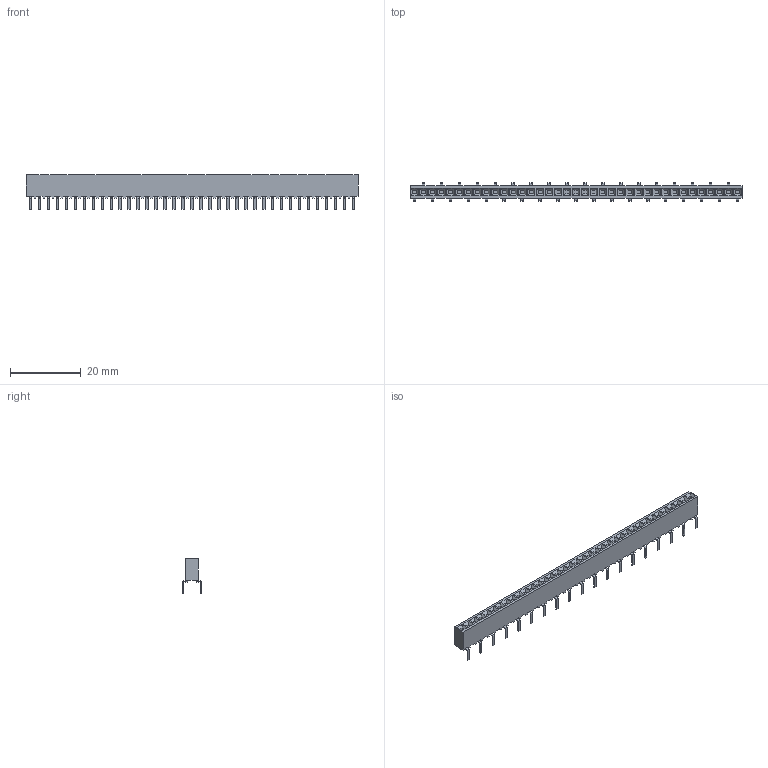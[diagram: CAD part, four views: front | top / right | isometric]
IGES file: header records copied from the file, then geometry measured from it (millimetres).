
Start section:  PTC IGES file: c-0147726-36-j-3d.igs
Global section: file name: c-0147726-36-j-3d.igs; native system: Pro/ENGINEER by Parametric Technology Corporation; preprocessor: 2005450; author: workeradm; organization: Unknown; date: 070905.015625; units: millimetre
Bounding box: 93.98 x 5.28 x 9.91 mm (x, y, z)
Surface area: 2404.5 mm2 (no closed solid volume)
Topology: 0 solids, 0 shells, 1072 faces, 5650 edges, 5650 vertices
Faces by surface type: bspline 935, revolution 137
